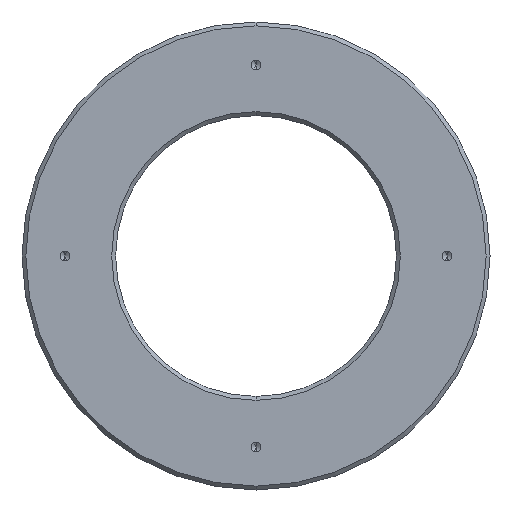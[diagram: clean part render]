
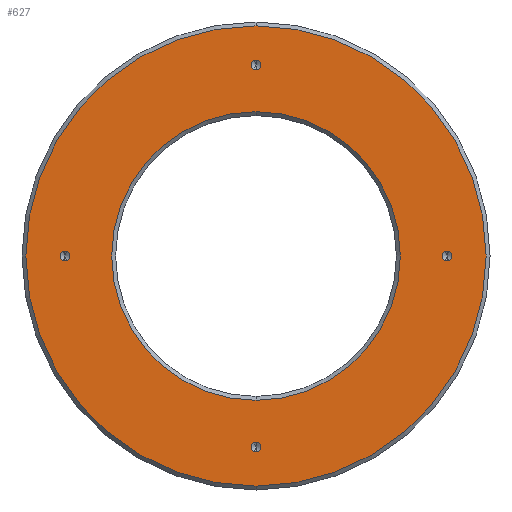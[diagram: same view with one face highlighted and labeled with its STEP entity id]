
A CAD part, front view. The second image highlights one B-rep face of the part: STEP entity #627.
In plain terms, the highlighted planar face has unit normal (0, -1, 0).
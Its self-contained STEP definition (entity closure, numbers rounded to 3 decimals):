
#3 = AXIS2_PLACEMENT_3D ( 'NONE', #339, #539, #591 ) ;
#5 = DIRECTION ( 'NONE',  ( 0., 0., 1. ) ) ;
#7 = CIRCLE ( 'NONE', #3, 1.25 ) ;
#14 = CARTESIAN_POINT ( 'NONE',  ( 0., 0., 0. ) ) ;
#18 = CARTESIAN_POINT ( 'NONE',  ( 0., 0., 49. ) ) ;
#31 = VERTEX_POINT ( 'NONE', #713 ) ;
#34 = EDGE_CURVE ( 'NONE', #164, #336, #430, .T. ) ;
#40 = FACE_BOUND ( 'NONE', #133, .T. ) ;
#47 = DIRECTION ( 'NONE',  ( 0., 1., 0. ) ) ;
#48 = AXIS2_PLACEMENT_3D ( 'NONE', #330, #400, #205 ) ;
#67 = DIRECTION ( 'NONE',  ( 0., -1., 0. ) ) ;
#75 = VERTEX_POINT ( 'NONE', #456 ) ;
#89 = AXIS2_PLACEMENT_3D ( 'NONE', #524, #262, #651 ) ;
#90 = FACE_OUTER_BOUND ( 'NONE', #564, .T. ) ;
#103 = AXIS2_PLACEMENT_3D ( 'NONE', #463, #67, #452 ) ;
#107 = FACE_BOUND ( 'NONE', #473, .T. ) ;
#110 = VERTEX_POINT ( 'NONE', #648 ) ;
#111 = AXIS2_PLACEMENT_3D ( 'NONE', #778, #47, #375 ) ;
#113 = DIRECTION ( 'NONE',  ( 0., 0., -1. ) ) ;
#124 = EDGE_CURVE ( 'NONE', #608, #646, #490, .T. ) ;
#133 = EDGE_LOOP ( 'NONE', ( #687, #553 ) ) ;
#137 = DIRECTION ( 'NONE',  ( 0., 0., 1. ) ) ;
#164 = VERTEX_POINT ( 'NONE', #663 ) ;
#172 = EDGE_CURVE ( 'NONE', #607, #390, #7, .T. ) ;
#178 = EDGE_CURVE ( 'NONE', #336, #164, #659, .T. ) ;
#191 = CIRCLE ( 'NONE', #89, 1.25 ) ;
#194 = DIRECTION ( 'NONE',  ( 0., 0., 1. ) ) ;
#195 = EDGE_CURVE ( 'NONE', #696, #75, #863, .T. ) ;
#198 = EDGE_CURVE ( 'NONE', #646, #608, #202, .T. ) ;
#201 = CIRCLE ( 'NONE', #260, 1.25 ) ;
#202 = CIRCLE ( 'NONE', #530, 37. ) ;
#205 = DIRECTION ( 'NONE',  ( 0., 0., -1. ) ) ;
#208 = DIRECTION ( 'NONE',  ( 0., 0., -1. ) ) ;
#218 = ORIENTED_EDGE ( 'NONE', *, *, #172, .F. ) ;
#250 = DIRECTION ( 'NONE',  ( 0., 0., -1. ) ) ;
#251 = DIRECTION ( 'NONE',  ( 0., -1., 0. ) ) ;
#260 = AXIS2_PLACEMENT_3D ( 'NONE', #504, #577, #113 ) ;
#262 = DIRECTION ( 'NONE',  ( 0., -1., 0. ) ) ;
#278 = AXIS2_PLACEMENT_3D ( 'NONE', #770, #622, #294 ) ;
#289 = CARTESIAN_POINT ( 'NONE',  ( 0., 0., -47.75 ) ) ;
#292 = AXIS2_PLACEMENT_3D ( 'NONE', #602, #736, #807 ) ;
#294 = DIRECTION ( 'NONE',  ( 0., 0., -1. ) ) ;
#296 = ORIENTED_EDGE ( 'NONE', *, *, #611, .F. ) ;
#307 = DIRECTION ( 'NONE',  ( 0., -1., 0. ) ) ;
#316 = CARTESIAN_POINT ( 'NONE',  ( -49., 0., 0. ) ) ;
#330 = CARTESIAN_POINT ( 'NONE',  ( 0., 0., 49. ) ) ;
#336 = VERTEX_POINT ( 'NONE', #549 ) ;
#339 = CARTESIAN_POINT ( 'NONE',  ( 0., 0., -49. ) ) ;
#365 = ORIENTED_EDGE ( 'NONE', *, *, #198, .T. ) ;
#370 = EDGE_CURVE ( 'NONE', #110, #823, #519, .T. ) ;
#371 = CIRCLE ( 'NONE', #484, 1.25 ) ;
#375 = DIRECTION ( 'NONE',  ( 0., 0., 1. ) ) ;
#390 = VERTEX_POINT ( 'NONE', #289 ) ;
#393 = CARTESIAN_POINT ( 'NONE',  ( 0., 0., 50.25 ) ) ;
#397 = FACE_BOUND ( 'NONE', #573, .T. ) ;
#400 = DIRECTION ( 'NONE',  ( 0., -1., 0. ) ) ;
#402 = ORIENTED_EDGE ( 'NONE', *, *, #804, .F. ) ;
#408 = FACE_BOUND ( 'NONE', #769, .T. ) ;
#430 = CIRCLE ( 'NONE', #825, 59. ) ;
#436 = CIRCLE ( 'NONE', #834, 1.25 ) ;
#439 = PLANE ( 'NONE',  #111 ) ;
#444 = AXIS2_PLACEMENT_3D ( 'NONE', #14, #743, #137 ) ;
#452 = DIRECTION ( 'NONE',  ( 0., 0., -1. ) ) ;
#456 = CARTESIAN_POINT ( 'NONE',  ( 0., 0., 47.75 ) ) ;
#463 = CARTESIAN_POINT ( 'NONE',  ( 49., 0., 0. ) ) ;
#471 = ORIENTED_EDGE ( 'NONE', *, *, #702, .F. ) ;
#473 = EDGE_LOOP ( 'NONE', ( #402, #833 ) ) ;
#484 = AXIS2_PLACEMENT_3D ( 'NONE', #316, #307, #250 ) ;
#490 = CIRCLE ( 'NONE', #444, 37. ) ;
#500 = CARTESIAN_POINT ( 'NONE',  ( 0., 0., -37. ) ) ;
#504 = CARTESIAN_POINT ( 'NONE',  ( -49., 0., 0. ) ) ;
#519 = CIRCLE ( 'NONE', #278, 1.25 ) ;
#524 = CARTESIAN_POINT ( 'NONE',  ( 0., 0., -49. ) ) ;
#530 = AXIS2_PLACEMENT_3D ( 'NONE', #798, #536, #5 ) ;
#535 = ORIENTED_EDGE ( 'NONE', *, *, #124, .T. ) ;
#536 = DIRECTION ( 'NONE',  ( 0., 1., 0. ) ) ;
#539 = DIRECTION ( 'NONE',  ( 0., -1., 0. ) ) ;
#549 = CARTESIAN_POINT ( 'NONE',  ( 0., 0., 59. ) ) ;
#553 = ORIENTED_EDGE ( 'NONE', *, *, #195, .F. ) ;
#564 = EDGE_LOOP ( 'NONE', ( #809, #786 ) ) ;
#573 = EDGE_LOOP ( 'NONE', ( #365, #535 ) ) ;
#577 = DIRECTION ( 'NONE',  ( 0., -1., 0. ) ) ;
#591 = DIRECTION ( 'NONE',  ( 0., 0., -1. ) ) ;
#602 = CARTESIAN_POINT ( 'NONE',  ( 0., 0., 0. ) ) ;
#607 = VERTEX_POINT ( 'NONE', #841 ) ;
#608 = VERTEX_POINT ( 'NONE', #718 ) ;
#611 = EDGE_CURVE ( 'NONE', #768, #31, #371, .T. ) ;
#622 = DIRECTION ( 'NONE',  ( 0., -1., 0. ) ) ;
#627 = ADVANCED_FACE ( 'NONE', ( #40, #408, #840, #397, #90, #107 ), #439, .F. ) ;
#631 = CARTESIAN_POINT ( 'NONE',  ( 0., 0., 0. ) ) ;
#636 = EDGE_CURVE ( 'NONE', #31, #768, #201, .T. ) ;
#646 = VERTEX_POINT ( 'NONE', #500 ) ;
#648 = CARTESIAN_POINT ( 'NONE',  ( 49., 0., 1.25 ) ) ;
#651 = DIRECTION ( 'NONE',  ( 0., 0., -1. ) ) ;
#653 = CARTESIAN_POINT ( 'NONE',  ( -49., 0., 1.25 ) ) ;
#659 = CIRCLE ( 'NONE', #292, 59. ) ;
#663 = CARTESIAN_POINT ( 'NONE',  ( 0., 0., -59. ) ) ;
#671 = DIRECTION ( 'NONE',  ( 0., -1., 0. ) ) ;
#678 = CARTESIAN_POINT ( 'NONE',  ( 49., 0., -1.25 ) ) ;
#680 = CIRCLE ( 'NONE', #103, 1.25 ) ;
#687 = ORIENTED_EDGE ( 'NONE', *, *, #838, .F. ) ;
#696 = VERTEX_POINT ( 'NONE', #393 ) ;
#702 = EDGE_CURVE ( 'NONE', #390, #607, #191, .T. ) ;
#713 = CARTESIAN_POINT ( 'NONE',  ( -49., 0., -1.25 ) ) ;
#718 = CARTESIAN_POINT ( 'NONE',  ( 0., 0., 37. ) ) ;
#736 = DIRECTION ( 'NONE',  ( 0., -1., 0. ) ) ;
#743 = DIRECTION ( 'NONE',  ( 0., 1., 0. ) ) ;
#760 = ORIENTED_EDGE ( 'NONE', *, *, #636, .F. ) ;
#768 = VERTEX_POINT ( 'NONE', #653 ) ;
#769 = EDGE_LOOP ( 'NONE', ( #760, #296 ) ) ;
#770 = CARTESIAN_POINT ( 'NONE',  ( 49., 0., 0. ) ) ;
#778 = CARTESIAN_POINT ( 'NONE',  ( 0., 0., 0. ) ) ;
#786 = ORIENTED_EDGE ( 'NONE', *, *, #34, .T. ) ;
#798 = CARTESIAN_POINT ( 'NONE',  ( 0., 0., 0. ) ) ;
#804 = EDGE_CURVE ( 'NONE', #823, #110, #680, .T. ) ;
#807 = DIRECTION ( 'NONE',  ( 0., 0., 1. ) ) ;
#809 = ORIENTED_EDGE ( 'NONE', *, *, #178, .T. ) ;
#823 = VERTEX_POINT ( 'NONE', #678 ) ;
#825 = AXIS2_PLACEMENT_3D ( 'NONE', #631, #251, #194 ) ;
#833 = ORIENTED_EDGE ( 'NONE', *, *, #370, .F. ) ;
#834 = AXIS2_PLACEMENT_3D ( 'NONE', #18, #671, #208 ) ;
#838 = EDGE_CURVE ( 'NONE', #75, #696, #436, .T. ) ;
#840 = FACE_BOUND ( 'NONE', #867, .T. ) ;
#841 = CARTESIAN_POINT ( 'NONE',  ( 0., 0., -50.25 ) ) ;
#863 = CIRCLE ( 'NONE', #48, 1.25 ) ;
#867 = EDGE_LOOP ( 'NONE', ( #218, #471 ) ) ;
